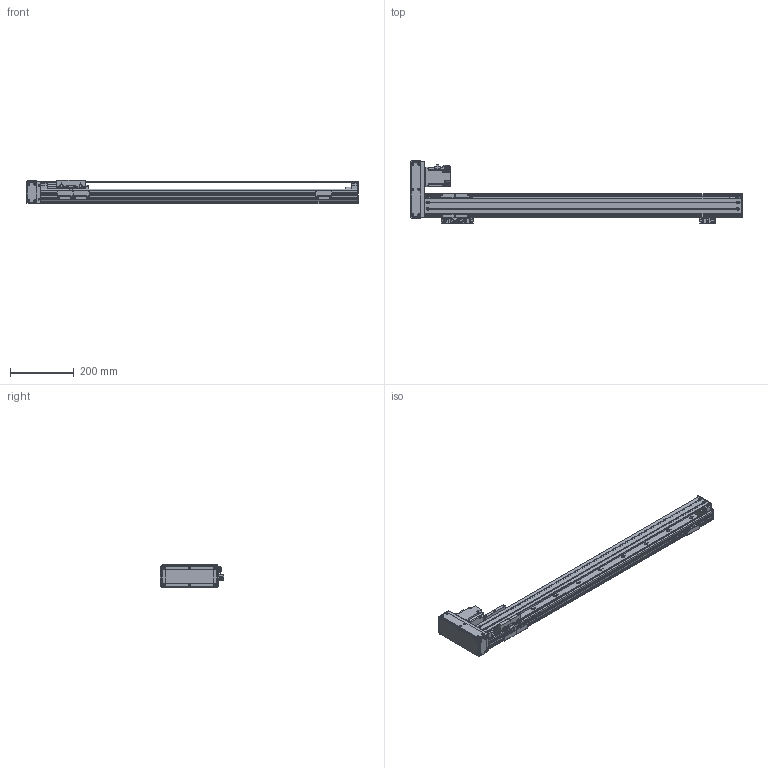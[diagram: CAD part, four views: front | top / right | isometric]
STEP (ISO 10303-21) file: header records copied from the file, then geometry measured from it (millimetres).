
FILE_DESCRIPTION(/* description */ (''),/* implementation_level */ '2;1');
FILE_NAME(/* name */ '\\192.168.0.160\disk1\HAN SHIN Master\B-설계부문\C-표준\B-2024년\BC02-표준도면\+로봇 개선표준도면\표준 승인도 작업 폴더\3D\HG75\HG75병렬\좌병렬\HG75-L20-N1B-0800-R10.stp',/* time_stamp */ '2024-02-02T09:13:14+09:00',/* author */ ('User'),/* organization */ (''),/* preprocessor_version */ 'ST-DEVELOPER v18.1',/* originating_system */ 'Autodesk Inventor 2022',/* authorisation */ '');
FILE_SCHEMA (('AUTOMOTIVE_DESIGN { 1 0 10303 214 3 1 1 }'));
Products named in the file (25): HG75-L20-N1B-0500-R10 - 간소화; BASE; HR75 FRONT BLOCK; HR75 REAR COVER-TENTION; HR75 TENSION REAR BLOCK; HG3UPCOV001; H 15F_BLOCK; HR65,75 SENSOR DOG; HG90STOPPER - 20L; HG90STOPPER - 27L; MOTOR PLATE-200W(MITSUBISHI); HC75-LR-MOTOR PLATE(200W)-사출; 화살표; HR75-LR-BELT COVER(200W); HR75-BELT COVER-COVER2; HR75-BELT COVER-COVER; hg-kr23_; HR65-BELT COVER-COVER3; hsr_ftht_A-M6F_grease_nipple_joint; NIPPLE CAP(신규); M-5HL-4; HR75 W TABLE; LMKE1520 NUT; SENSOR BRK(EE-SX674A); EE_SX674A
Assembly tree (32 placements, depth 2):
  HG75-L20-N1B-0500-R10 - 간소화
    BASE
    HR75 FRONT BLOCK
    HR75 REAR COVER-TENTION
    SENSOR BRK(EE-SX674A)  x3
    EE_SX674A  x3
    HR75 TENSION REAR BLOCK
    HG3UPCOV001
    H 15F_BLOCK
    HR65,75 SENSOR DOG
    HG90STOPPER - 20L
    HG90STOPPER - 27L
    MOTOR PLATE-200W(MITSUBISHI)
    HC75-LR-MOTOR PLATE(200W)-사출
    화살표  x2
    HR75-LR-BELT COVER(200W)
    HR75-BELT COVER-COVER2
    HR75-BELT COVER-COVER
    HR65-BELT COVER-COVER3  x2
    hg-kr23_
    hsr_ftht_A-M6F_grease_nipple_joint  x2
    NIPPLE CAP(신규)  x2
    M-5HL-4
    HR75 W TABLE
    LMKE1520 NUT
Bounding box: 1039 x 199 x 73 mm (x, y, z)
Volume: 1755444.8 mm3; surface area: 797477.5 mm2
Topology: 32 solids, 32 shells, 3140 faces, 8645 edges, 5711 vertices
Faces by surface type: plane 2265, cylinder 690, cone 141, sphere 24, torus 12, bspline 8
Full cylindrical faces by diameter (mm): 1.8 x1, 2 x4, 2.013 x2, 2.459 x16, 2.5 x2, 3 x8, 3.242 x56, 3.4 x20, 3.5 x6, 4.134 x54, 4.5 x22, 4.917 x5, 5 x31, 5.5 x38, 5.6 x10, 5.8 x4, 5.9 x8, 6 x6, 6.5 x5, 7 x1, 8 x1, 9.5 x34, 14 x1, 15 x3, 17 x1, 20 x1, 25 x2, 28 x1, 32 x2, 33.7 x1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
Entity records: 92938 total; most frequent: CARTESIAN_POINT 17049, ORIENTED_EDGE 15664, DIRECTION 14965, EDGE_CURVE 7832, LINE 6289, VECTOR 6289, VERTEX_POINT 5212, AXIS2_PLACEMENT_3D 4338
